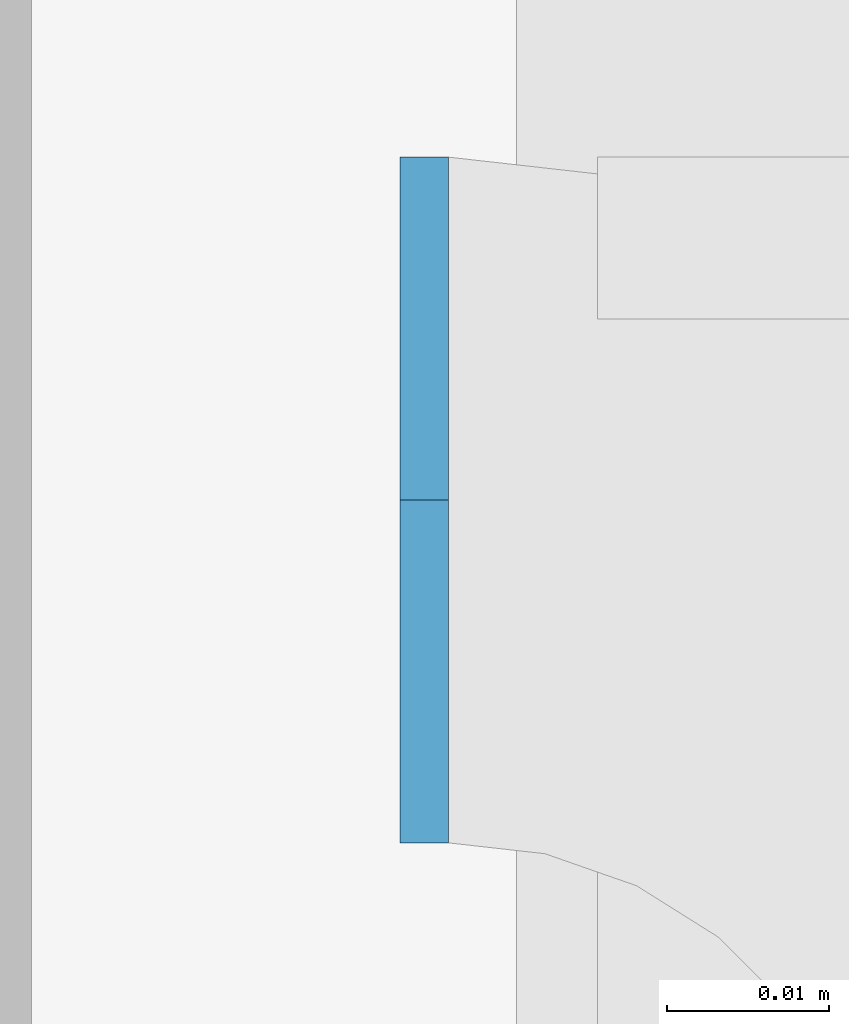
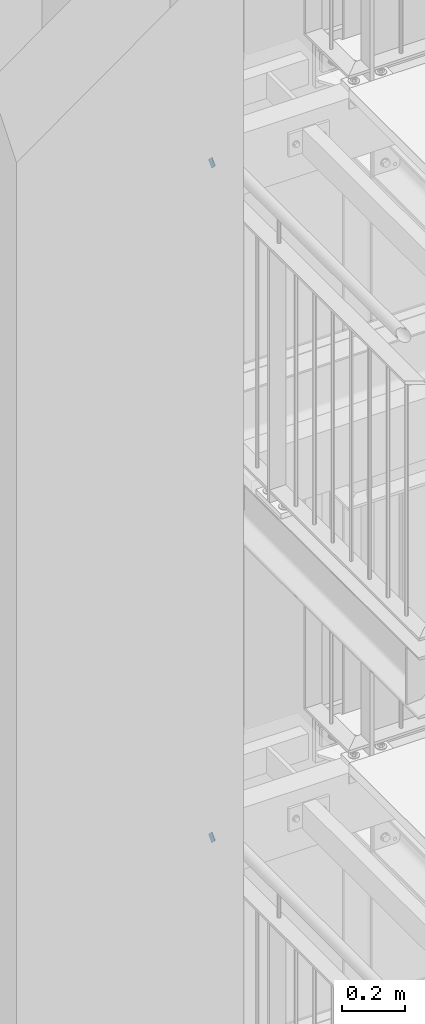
# One storey, part 219 of 821: 2 plates, 8 openings.
"""IFC2X3 building model written with IfcOpenShell, lengths in millimetres."""

from ifc_helpers import new_model, entity, si_unit, converted_unit, point, frame, frame_2d, origin, origin_with_axes, place, context, project, spatial, polyline, circle_curve, line_curve, trimmed, segment, composite_curve, outline, extrude, material, layer, layer_set, element, save


model = new_model("IFC2X3")

# Units and contexts
model_context = context("Model", 3, precision=1e-09, world=origin_with_axes())
ifc_project = project(units=[si_unit("LENGTHUNIT", "METRE", prefix="MILLI"), si_unit("AREAUNIT", "SQUARE_METRE"), si_unit("VOLUMEUNIT", "CUBIC_METRE"), converted_unit("PLANEANGLEUNIT", "DEGREE", entity("IfcPlaneAngleMeasure", 0.01745329), si_unit("PLANEANGLEUNIT", "RADIAN"), dimensions=[0, 0, 0, 0, 0, 0, 0])], contexts=[model_context])

# Site, building, storey
site_placement = place(None, origin_with_axes())
site = spatial("IfcSite", under=ifc_project, at=site_placement, Name="Cnopf'sche Kinderklinik", CompositionType="ELEMENT")
building_placement = place(site_placement, origin_with_axes())
building = spatial("IfcBuilding", under=site, at=building_placement, Name="Struktur 1", CompositionType="ELEMENT")
storey_placement = place(building_placement, origin_with_axes())
storey = spatial("IfcBuildingStorey", under=building, at=storey_placement, Name="Default Storey", CompositionType="ELEMENT", Elevation=0.0)

# Plate, openings
ifc_material = material(Name="S235JR")
ifc_layer = layer(ifc_material, 3.0)
ifc_layer_set = layer_set([ifc_layer], Name="S235JR")
plate_1_placement = place(None, frame((3232.513402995, 5783.18329849, 16354.000000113), z_axis=(-1.0, 0.0, 0.0), x_axis=(0.0, 0.0, 1.0)))
plate_1 = element("IfcPlate", 1, at=plate_1_placement, inside=storey, material=ifc_layer_set, Name="-", ObjectType="-", context=model_context, shape_type="SweptSolid", body=[
    extrude(outline(polyline([(21.2, 0.0), (21.2, 42.4), (-21.2, 42.4), (-21.2, 0.0), (21.2, 0.0)])), origin_with_axes(), (0.0, 0.0, 1.0), 3.0),
])
opening_1_placement = place(plate_1_placement, frame((0.0, 0.0, -0.01), z_axis=(0.0, 0.0, 1.0), x_axis=(1.0, 0.0, 0.0)))
element("IfcOpeningElement", 2, at=opening_1_placement, cuts=plate_1, ObjectType="Opening", context=model_context, shape_type="SweptSolid", body=[
    extrude(outline(composite_curve([segment(trimmed(line_curve((21.2, 0.0), (0.0, 1.0), 21.2), [point((21.2, 0.0))], [point((21.2, 21.2))], True, "CARTESIAN"), True, "CONTINUOUS"), segment(trimmed(circle_curve(frame_2d((0.0, 21.2), x_axis=(-1.0, 0.0)), 21.2), [point((21.2, 21.2))], [point((0.0, 0.0))], False, "CARTESIAN"), True, "CONTINUOUS"), segment(trimmed(line_curve((0.0, 0.0), (1.0, 0.0), 21.2), [point((0.0, 0.0))], [point((21.2, 0.0))], True, "CARTESIAN"), True, "CONTINUOUS")], self_intersect=False)), origin(), (0.0, 0.0, 1.0), 3.02),
])
opening_2_placement = place(plate_1_placement, frame((0.0, 0.0, -0.01), z_axis=(0.0, 0.0, 1.0), x_axis=(1.0, 0.0, 0.0)))
element("IfcOpeningElement", 3, at=opening_2_placement, cuts=plate_1, ObjectType="Opening", context=model_context, shape_type="SweptSolid", body=[
    extrude(outline(composite_curve([segment(trimmed(line_curve((21.2, 42.4), (-1.0, 0.0), 21.2), [point((21.2, 42.4))], [point((0.0, 42.4))], True, "CARTESIAN"), True, "CONTINUOUS"), segment(trimmed(circle_curve(frame_2d((0.0, 21.2), x_axis=(-1.0, 0.0)), 21.2), [point((0.0, 42.4))], [point((21.2, 21.2))], False, "CARTESIAN"), True, "CONTINUOUS"), segment(trimmed(line_curve((21.2, 21.2), (0.0, 1.0), 21.2), [point((21.2, 21.2))], [point((21.2, 42.4))], True, "CARTESIAN"), True, "CONTINUOUS")], self_intersect=False)), origin(), (0.0, 0.0, 1.0), 3.02),
])
opening_3_placement = place(plate_1_placement, frame((0.0, 0.0, -0.01), z_axis=(0.0, 0.0, 1.0), x_axis=(1.0, 0.0, 0.0)))
element("IfcOpeningElement", 4, at=opening_3_placement, cuts=plate_1, ObjectType="Opening", context=model_context, shape_type="SweptSolid", body=[
    extrude(outline(composite_curve([segment(trimmed(line_curve((-21.2, 42.4), (0.0, -1.0), 21.2), [point((-21.2, 42.4))], [point((-21.2, 21.2))], True, "CARTESIAN"), True, "CONTINUOUS"), segment(trimmed(circle_curve(frame_2d((0.0, 21.2), x_axis=(-1.0, 0.0)), 21.2), [point((-21.2, 21.2))], [point((0.0, 42.4))], False, "CARTESIAN"), True, "CONTINUOUS"), segment(trimmed(line_curve((0.0, 42.4), (-1.0, 0.0), 21.2), [point((0.0, 42.4))], [point((-21.2, 42.4))], True, "CARTESIAN"), True, "CONTINUOUS")], self_intersect=False)), origin(), (0.0, 0.0, 1.0), 3.02),
])
opening_4_placement = place(plate_1_placement, frame((0.0, 0.0, -0.01), z_axis=(0.0, 0.0, 1.0), x_axis=(1.0, 0.0, 0.0)))
element("IfcOpeningElement", 5, at=opening_4_placement, cuts=plate_1, ObjectType="Opening", context=model_context, shape_type="SweptSolid", body=[
    extrude(outline(composite_curve([segment(trimmed(line_curve((-21.2, 0.0), (1.0, 0.0), 21.2), [point((-21.2, 0.0))], [point((0.0, 0.0))], True, "CARTESIAN"), True, "CONTINUOUS"), segment(trimmed(circle_curve(frame_2d((0.0, 21.2), x_axis=(-1.0, 0.0)), 21.2), [point((0.0, 0.0))], [point((-21.2, 21.2))], False, "CARTESIAN"), True, "CONTINUOUS"), segment(trimmed(line_curve((-21.2, 21.2), (0.0, -1.0), 21.2), [point((-21.2, 21.2))], [point((-21.2, 0.0))], True, "CARTESIAN"), True, "CONTINUOUS")], self_intersect=False)), origin(), (0.0, 0.0, 1.0), 3.02),
])

plate_2_placement = place(None, frame((3232.513402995, 5783.18329849, 13719.000000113), z_axis=(-1.0, 0.0, 0.0), x_axis=(0.0, 0.0, 1.0)))
plate_2 = element("IfcPlate", 6, at=plate_2_placement, inside=storey, material=ifc_layer_set, Name="-", ObjectType="-", context=model_context, shape_type="SweptSolid", body=[
    extrude(outline(polyline([(21.2, 0.0), (21.2, 42.4), (-21.2, 42.4), (-21.2, 0.0), (21.2, 0.0)])), origin_with_axes(), (0.0, 0.0, 1.0), 3.0),
])
opening_5_placement = place(plate_2_placement, frame((0.0, 0.0, -0.01), z_axis=(0.0, 0.0, 1.0), x_axis=(1.0, 0.0, 0.0)))
element("IfcOpeningElement", 7, at=opening_5_placement, cuts=plate_2, ObjectType="Opening", context=model_context, shape_type="SweptSolid", body=[
    extrude(outline(composite_curve([segment(trimmed(line_curve((21.2, 0.0), (0.0, 1.0), 21.2), [point((21.2, 0.0))], [point((21.2, 21.2))], True, "CARTESIAN"), True, "CONTINUOUS"), segment(trimmed(circle_curve(frame_2d((0.0, 21.2), x_axis=(-1.0, 0.0)), 21.2), [point((21.2, 21.2))], [point((0.0, 0.0))], False, "CARTESIAN"), True, "CONTINUOUS"), segment(trimmed(line_curve((0.0, 0.0), (1.0, 0.0), 21.2), [point((0.0, 0.0))], [point((21.2, 0.0))], True, "CARTESIAN"), True, "CONTINUOUS")], self_intersect=False)), origin(), (0.0, 0.0, 1.0), 3.02),
])
opening_6_placement = place(plate_2_placement, frame((0.0, 0.0, -0.01), z_axis=(0.0, 0.0, 1.0), x_axis=(1.0, 0.0, 0.0)))
element("IfcOpeningElement", 8, at=opening_6_placement, cuts=plate_2, ObjectType="Opening", context=model_context, shape_type="SweptSolid", body=[
    extrude(outline(composite_curve([segment(trimmed(line_curve((21.2, 42.4), (-1.0, 0.0), 21.2), [point((21.2, 42.4))], [point((0.0, 42.4))], True, "CARTESIAN"), True, "CONTINUOUS"), segment(trimmed(circle_curve(frame_2d((0.0, 21.2), x_axis=(-1.0, 0.0)), 21.2), [point((0.0, 42.4))], [point((21.2, 21.2))], False, "CARTESIAN"), True, "CONTINUOUS"), segment(trimmed(line_curve((21.2, 21.2), (0.0, 1.0), 21.2), [point((21.2, 21.2))], [point((21.2, 42.4))], True, "CARTESIAN"), True, "CONTINUOUS")], self_intersect=False)), origin(), (0.0, 0.0, 1.0), 3.02),
])
opening_7_placement = place(plate_2_placement, frame((0.0, 0.0, -0.01), z_axis=(0.0, 0.0, 1.0), x_axis=(1.0, 0.0, 0.0)))
element("IfcOpeningElement", 9, at=opening_7_placement, cuts=plate_2, ObjectType="Opening", context=model_context, shape_type="SweptSolid", body=[
    extrude(outline(composite_curve([segment(trimmed(line_curve((-21.2, 42.4), (0.0, -1.0), 21.2), [point((-21.2, 42.4))], [point((-21.2, 21.2))], True, "CARTESIAN"), True, "CONTINUOUS"), segment(trimmed(circle_curve(frame_2d((0.0, 21.2), x_axis=(-1.0, 0.0)), 21.2), [point((-21.2, 21.2))], [point((0.0, 42.4))], False, "CARTESIAN"), True, "CONTINUOUS"), segment(trimmed(line_curve((0.0, 42.4), (-1.0, 0.0), 21.2), [point((0.0, 42.4))], [point((-21.2, 42.4))], True, "CARTESIAN"), True, "CONTINUOUS")], self_intersect=False)), origin(), (0.0, 0.0, 1.0), 3.02),
])
opening_8_placement = place(plate_2_placement, frame((0.0, 0.0, -0.01), z_axis=(0.0, 0.0, 1.0), x_axis=(1.0, 0.0, 0.0)))
element("IfcOpeningElement", 10, at=opening_8_placement, cuts=plate_2, ObjectType="Opening", context=model_context, shape_type="SweptSolid", body=[
    extrude(outline(composite_curve([segment(trimmed(line_curve((-21.2, 0.0), (1.0, 0.0), 21.2), [point((-21.2, 0.0))], [point((0.0, 0.0))], True, "CARTESIAN"), True, "CONTINUOUS"), segment(trimmed(circle_curve(frame_2d((0.0, 21.2), x_axis=(-1.0, 0.0)), 21.2), [point((0.0, 0.0))], [point((-21.2, 21.2))], False, "CARTESIAN"), True, "CONTINUOUS"), segment(trimmed(line_curve((-21.2, 21.2), (0.0, -1.0), 21.2), [point((-21.2, 21.2))], [point((-21.2, 0.0))], True, "CARTESIAN"), True, "CONTINUOUS")], self_intersect=False)), origin(), (0.0, 0.0, 1.0), 3.02),
])

save(model, "model.ifc")
